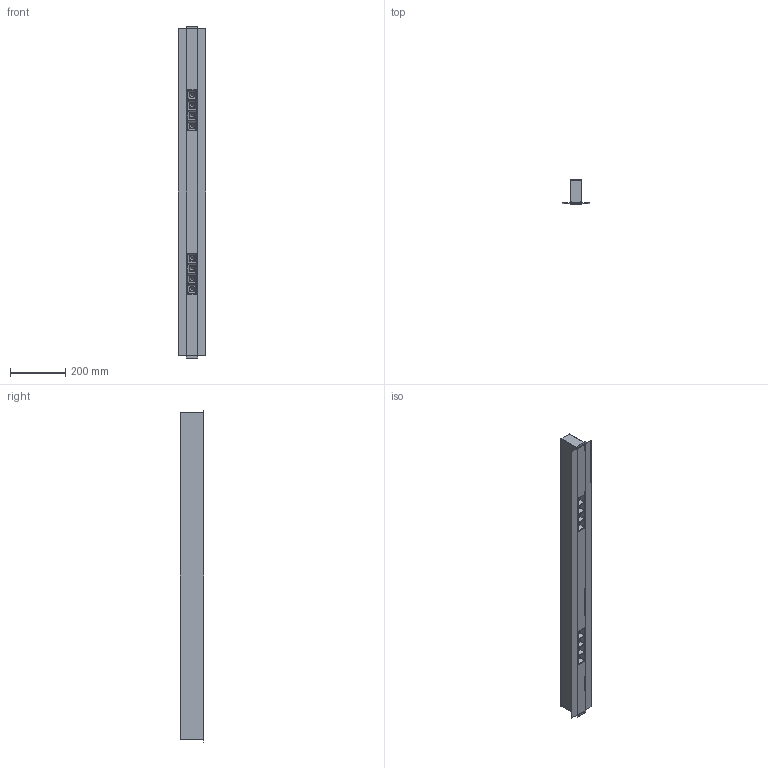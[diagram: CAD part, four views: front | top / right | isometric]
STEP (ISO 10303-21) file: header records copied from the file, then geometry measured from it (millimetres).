
FILE_DESCRIPTION(/* description */ (''),/* implementation_level */ '2;1');
FILE_NAME(/* name */ '25_x_t.stp',/* time_stamp */ '2018-02-23T15:05:08+01:00',/* author */ (''),/* organization */ (''),/* preprocessor_version */ 'ST-DEVELOPER v16',/* originating_system */ 'SIEMENS PLM Software NX 11.0',/* authorisation */ '');
FILE_SCHEMA (('AUTOMOTIVE_DESIGN { 1 0 10303 214 3 1 1 1 }'));
Length unit declared in the file: millimetre
Products named in the file (15): 25_id6_x_t; 25_id11_x_t; 25_id18_x_t; 25_id25_x_t; 25_id32_x_t; 25_id39_x_t; 25_id46_x_t; 25_id53_x_t; 25_id60_x_t; 25_id67_x_t; 25_id74_x_t; 25_id81_x_t; 25_id88_x_t; 25_id95_x_t; 25_x_t
Assembly tree (27 placements, depth 2):
  25_x_t
    25_id95_x_t  x2
    25_id88_x_t  x2
    25_id81_x_t  x2
    25_id74_x_t  x2
    25_id67_x_t  x2
    25_id60_x_t  x2
    25_id53_x_t  x2
    25_id46_x_t  x2
    25_id39_x_t  x2
    25_id32_x_t  x2
    25_id25_x_t  x2
    25_id18_x_t  x2
    25_id11_x_t  x2
    25_id6_x_t
Bounding box: 100.3 x 85 x 1204.5 mm (x, y, z)
Volume: 650773.1 mm3; surface area: 835258.8 mm2
Topology: 11 solids, 27 shells, 454 faces, 1064 edges, 640 vertices
Faces by surface type: plane 138, bspline 104, cylinder 92, cone 40, extrusion 32, torus 24, sphere 24
Entity records: 8454 total; most frequent: CARTESIAN_POINT 2954, ORIENTED_EDGE 1012, DIRECTION 1000, EDGE_CURVE 512, AXIS2_PLACEMENT_3D 360, VERTEX_POINT 336, EDGE_LOOP 296, VECTOR 280
